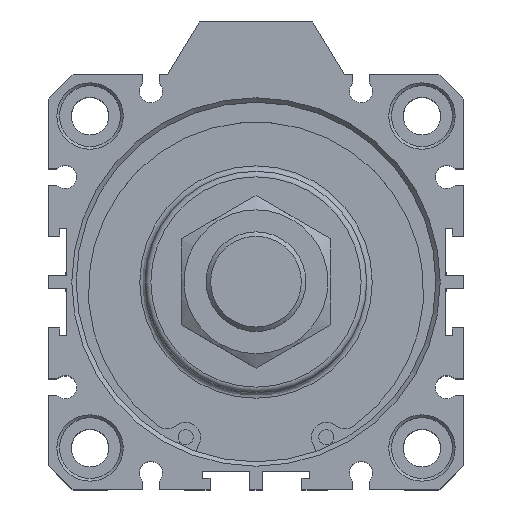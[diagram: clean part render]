
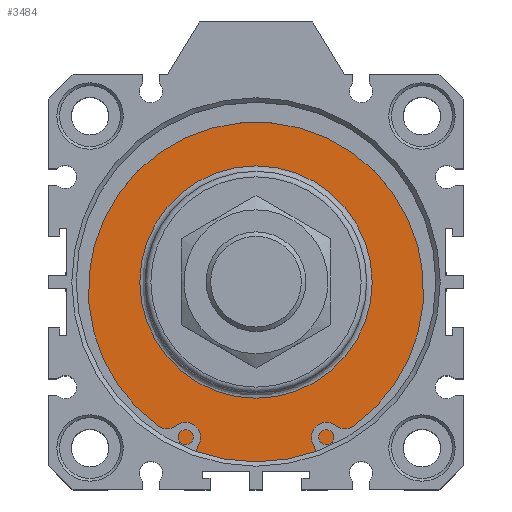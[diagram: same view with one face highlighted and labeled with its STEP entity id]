
A CAD part, top view. The second image highlights one B-rep face of the part: STEP entity #3484.
In plain terms, the highlighted planar face has unit normal (0, 0, 1).
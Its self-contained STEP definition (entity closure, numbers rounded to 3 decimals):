
#3433=CARTESIAN_POINT('',(2.99,22.555,47.3));
#3434=VERTEX_POINT('',#3433);
#3435=CARTESIAN_POINT('',(2.99,1.555,47.3));
#3436=DIRECTION('',(0.0,0.0,1.0));
#3437=DIRECTION('',(0.0,-1.0,0.0));
#3438=AXIS2_PLACEMENT_3D('',#3435,#3436,#3437);
#3439=CIRCLE('',#3438,21.0);
#3440=EDGE_CURVE('',#3434,#3434,#3439,.T.);
#3465=CARTESIAN_POINT('',(2.99,27.805,47.3));
#3466=DIRECTION('',(0.0,0.0,1.0));
#3467=DIRECTION('',(1.0,0.0,0.0));
#3468=AXIS2_PLACEMENT_3D('',#3465,#3466,#3467);
#3469=PLANE('',#3468);
#3470=CARTESIAN_POINT('',(2.99,34.055,47.3));
#3471=VERTEX_POINT('',#3470);
#3472=CARTESIAN_POINT('',(2.99,1.555,47.3));
#3473=DIRECTION('',(0.0,0.0,-1.0));
#3474=DIRECTION('',(0.0,1.0,0.0));
#3475=AXIS2_PLACEMENT_3D('',#3472,#3473,#3474);
#3476=CIRCLE('',#3475,32.5);
#3477=EDGE_CURVE('',#3471,#3471,#3476,.T.);
#3478=ORIENTED_EDGE('',*,*,#3477,.F.);
#3479=EDGE_LOOP('',(#3478));
#3480=FACE_OUTER_BOUND('',#3479,.T.);
#3481=ORIENTED_EDGE('',*,*,#3440,.F.);
#3482=EDGE_LOOP('',(#3481));
#3483=FACE_BOUND('',#3482,.T.);
#3484=ADVANCED_FACE('',(#3480,#3483),#3469,.T.);
